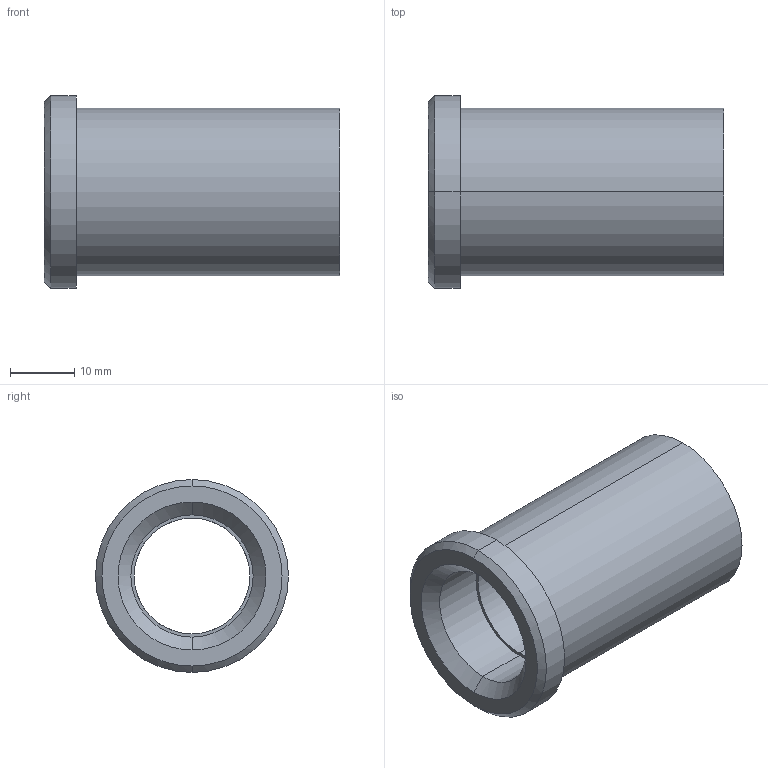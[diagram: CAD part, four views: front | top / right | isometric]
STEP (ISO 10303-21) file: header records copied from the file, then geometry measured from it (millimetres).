
FILE_DESCRIPTION(('CATIA V5 STEP Exchange'),'2;1');
FILE_NAME('C:\Users\Utente\Desktop\IO LAVORO\3D X SITO CF\X SITO\PLASTICA\353\353-18X46.stp','2021-05-08T08:42:40+00:00',('none'),('none'),'CATIA Version 5 Release 20 GA (IN-10)','CATIA V5 STEP AP203','none');
FILE_SCHEMA(('CONFIG_CONTROL_DESIGN'));
Length unit declared in the file: millimetre
Products named in the file (1): 353-18X46
Bounding box: 46 x 30 x 30 mm (x, y, z)
Volume: 13104.1 mm3; surface area: 7201 mm2
Topology: 1 solids, 1 shells, 18 faces, 58 edges, 44 vertices
Faces by surface type: cylinder 8, plane 4, cone 4, torus 2
Entity records: 840 total; most frequent: CARTESIAN_POINT 289, ORIENTED_EDGE 116, DIRECTION 82, EDGE_CURVE 58, AXIS2_PLACEMENT_3D 53, VERTEX_POINT 44, CIRCLE 34, EDGE_LOOP 22
